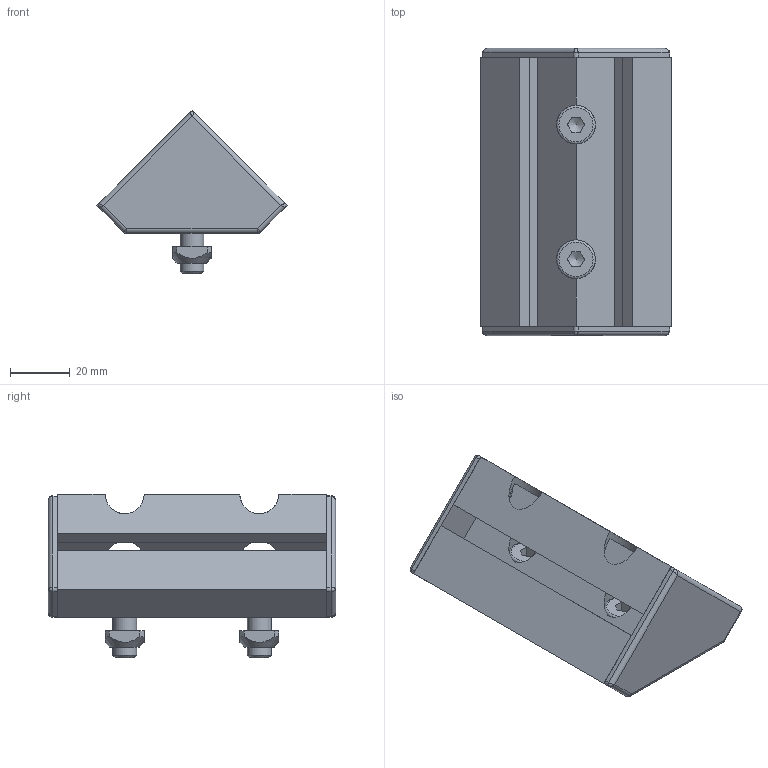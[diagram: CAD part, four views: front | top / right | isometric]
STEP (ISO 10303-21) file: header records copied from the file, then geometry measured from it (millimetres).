
FILE_DESCRIPTION((''),'2;1');
FILE_NAME('C:\Documents and Settings\Administrator\My Documents\Andys Backup Data\WEBSITE\DREAMWEAVER\MiniTec\Products\Profile_Fasteners\CAD\Step\21.1727 BRACE SOCKET 45-90.stp','2010-08-16T10:33:13',('Administrator'),(''),'Autodesk Inventor 2009','Autodesk Inventor 2009','');
FILE_SCHEMA(('CONFIG_CONTROL_DESIGN'));
Length unit declared in the file: millimetre
Products named in the file (5): 21.1727 BRACE SOCKET 45-90; 21.1280 M8X22; 21.1351 M8 SQUARE NUT; 22.1051_1 END CAP 45X45 DEG GRAY
Assembly tree (7 placements, depth 2):
  21.1727 BRACE SOCKET 45-90
    21.1727 BRACE SOCKET 45-90
    21.1280 M8X22  x2
    21.1351 M8 SQUARE NUT  x2
    22.1051_1 END CAP 45X45 DEG GRAY  x2
Bounding box: 63.64 x 96 x 54.64 mm (x, y, z)
Volume: 62982.5 mm3; surface area: 53518.9 mm2
Topology: 7 solids, 7 shells, 192 faces, 514 edges, 320 vertices
Faces by surface type: plane 119, cylinder 37, cone 18, torus 8, bspline 6, sphere 4
Full cylindrical faces by diameter (mm): 7.5 x3, 8 x4, 8.5 x2, 13 x6
Entity records: 4724 total; most frequent: CARTESIAN_POINT 1315, DIRECTION 668, ORIENTED_EDGE 668, EDGE_CURVE 334, VERTEX_POINT 227, VECTOR 224, LINE 224, AXIS2_PLACEMENT_3D 222
